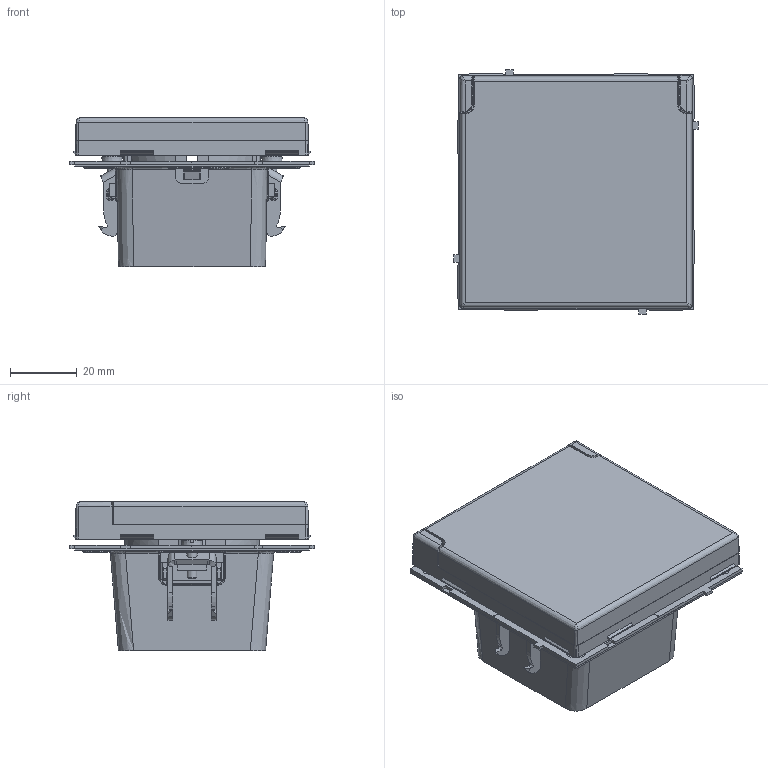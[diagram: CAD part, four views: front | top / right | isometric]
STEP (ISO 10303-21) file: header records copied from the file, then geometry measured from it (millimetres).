
FILE_DESCRIPTION (( 'STEP AP203' ), '1' );
FILE_NAME ('7000013.STEP', '2025-12-05T07:52:17', ( '' ), ( '' ), 'SwSTEP 2.0', 'SolidWorks 2022', '' );
FILE_SCHEMA (( 'CONFIG_CONTROL_DESIGN' ));
Products named in the file (1): 7000013
Bounding box: 73.5 x 73.5 x 44.8 mm (x, y, z)
Volume: 97030.6 mm3; surface area: 54767.5 mm2
Topology: 3 solids, 7 shells, 2266 faces, 6315 edges, 4095 vertices
Faces by surface type: plane 1324, cylinder 397, bspline 326, cone 124, torus 92, sphere 3
Full cylindrical faces by diameter (mm): 1.7 x1, 3 x4, 3.3 x2, 5.3 x1, 5.5 x3, 5.9 x1, 44.5 x1, 47 x1
Entity records: 88383 total; most frequent: CARTESIAN_POINT 33407, ORIENTED_EDGE 12544, DIRECTION 9720, EDGE_CURVE 6272, VERTEX_POINT 4081, LINE 4002, VECTOR 4002, AXIS2_PLACEMENT_3D 2859
